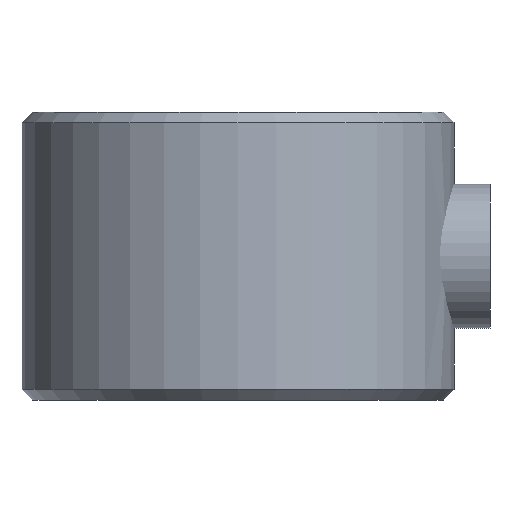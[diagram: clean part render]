
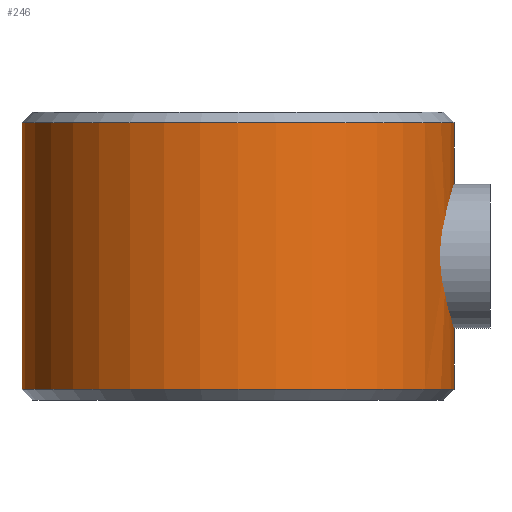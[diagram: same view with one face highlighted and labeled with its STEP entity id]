
A CAD part, front view. The second image highlights one B-rep face of the part: STEP entity #246.
In plain terms, the highlighted cylindrical face has radius 6 mm (diameter 12 mm), a partial arc.
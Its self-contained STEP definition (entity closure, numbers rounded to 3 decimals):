
#8 = CARTESIAN_POINT ( 'NONE',  ( -6., 0., 0.3 ) ) ;
#17 = CIRCLE ( 'NONE', #940, 6. ) ;
#40 = EDGE_CURVE ( 'NONE', #552, #570, #17, .T. ) ;
#48 = CARTESIAN_POINT ( 'NONE',  ( 0., 0., 0.3 ) ) ;
#52 = CARTESIAN_POINT ( 'NONE',  ( 5.907, -1.057, 2.794 ) ) ;
#58 = CARTESIAN_POINT ( 'NONE',  ( 5.921, -0.977, 5.272 ) ) ;
#61 = CARTESIAN_POINT ( 'NONE',  ( 5.986, -0.416, 5.549 ) ) ;
#63 = DIRECTION ( 'NONE',  ( 0., 0., -1. ) ) ;
#66 = CARTESIAN_POINT ( 'NONE',  ( 5.958, -0.711, 5.437 ) ) ;
#83 = CARTESIAN_POINT ( 'NONE',  ( 6., 0., 2.4 ) ) ;
#93 = CARTESIAN_POINT ( 'NONE',  ( -6., 0., 7.7 ) ) ;
#100 = B_SPLINE_CURVE_WITH_KNOTS ( 'NONE', 3,
 ( #806, #964, #736, #61, #650, #66, #728, #58, #666, #358, #295, #128, #575, #952, #371, #588, #213, #668, #220, #52, #585, #967, #291, #581, #592, #351, #887, #216 ),
 .UNSPECIFIED., .F., .F.,
 ( 4, 2, 2, 2, 2, 2, 2, 2, 2, 2, 2, 2, 2, 4 ),
 ( 0., 0., 0.001, 0.001, 0.001, 0.002, 0.003, 0.003, 0.003, 0.004, 0.004, 0.004, 0.005, 0.005 ),
 .UNSPECIFIED. ) ;
#107 = DIRECTION ( 'NONE',  ( 1., 0., 0. ) ) ;
#128 = CARTESIAN_POINT ( 'NONE',  ( 5.795, -1.557, 4.422 ) ) ;
#130 = VECTOR ( 'NONE', #391, 1000. ) ;
#138 = DIRECTION ( 'NONE',  ( 1., 0., 0. ) ) ;
#151 = EDGE_CURVE ( 'NONE', #176, #913, #100, .T. ) ;
#158 = AXIS2_PLACEMENT_3D ( 'NONE', #48, #501, #107 ) ;
#160 = CIRCLE ( 'NONE', #158, 6. ) ;
#176 = VERTEX_POINT ( 'NONE', #535 ) ;
#190 = AXIS2_PLACEMENT_3D ( 'NONE', #525, #907, #319 ) ;
#202 = CARTESIAN_POINT ( 'NONE',  ( 6., 0., 8. ) ) ;
#213 = CARTESIAN_POINT ( 'NONE',  ( 5.805, -1.518, 3.484 ) ) ;
#216 = CARTESIAN_POINT ( 'NONE',  ( 6., 0., 2.4 ) ) ;
#220 = CARTESIAN_POINT ( 'NONE',  ( 5.864, -1.279, 3.016 ) ) ;
#244 = ORIENTED_EDGE ( 'NONE', *, *, #603, .F. ) ;
#246 = ADVANCED_FACE ( 'NONE', ( #746 ), #468, .T. ) ;
#260 = DIRECTION ( 'NONE',  ( 0., 0., -1. ) ) ;
#263 = VERTEX_POINT ( 'NONE', #8 ) ;
#274 = LINE ( 'NONE', #202, #876 ) ;
#289 = CARTESIAN_POINT ( 'NONE',  ( 6., 0., 0.3 ) ) ;
#291 = CARTESIAN_POINT ( 'NONE',  ( 5.959, -0.71, 2.562 ) ) ;
#295 = CARTESIAN_POINT ( 'NONE',  ( 5.836, -1.398, 4.806 ) ) ;
#319 = DIRECTION ( 'NONE',  ( -1., 0., 0. ) ) ;
#320 = ORIENTED_EDGE ( 'NONE', *, *, #759, .F. ) ;
#324 = LINE ( 'NONE', #916, #130 ) ;
#337 = ORIENTED_EDGE ( 'NONE', *, *, #40, .T. ) ;
#351 = CARTESIAN_POINT ( 'NONE',  ( 5.997, -0.211, 2.41 ) ) ;
#358 = CARTESIAN_POINT ( 'NONE',  ( 5.864, -1.279, 4.984 ) ) ;
#363 = CARTESIAN_POINT ( 'NONE',  ( 0., 0., 7.7 ) ) ;
#371 = CARTESIAN_POINT ( 'NONE',  ( 5.786, -1.59, 3.789 ) ) ;
#391 = DIRECTION ( 'NONE',  ( 0., 0., -1. ) ) ;
#445 = DIRECTION ( 'NONE',  ( 0., 0., -1. ) ) ;
#457 = VECTOR ( 'NONE', #63, 1000. ) ;
#468 = CYLINDRICAL_SURFACE ( 'NONE', #190, 6. ) ;
#475 = CARTESIAN_POINT ( 'NONE',  ( 6., 0., 7.7 ) ) ;
#501 = DIRECTION ( 'NONE',  ( 0., 0., 1. ) ) ;
#510 = VERTEX_POINT ( 'NONE', #289 ) ;
#519 = CARTESIAN_POINT ( 'NONE',  ( 6., 0., 8. ) ) ;
#525 = CARTESIAN_POINT ( 'NONE',  ( 0., 0., 8. ) ) ;
#535 = CARTESIAN_POINT ( 'NONE',  ( 6., 0., 5.6 ) ) ;
#552 = VERTEX_POINT ( 'NONE', #475 ) ;
#570 = VERTEX_POINT ( 'NONE', #93 ) ;
#575 = CARTESIAN_POINT ( 'NONE',  ( 5.783, -1.6, 4.21 ) ) ;
#581 = CARTESIAN_POINT ( 'NONE',  ( 5.978, -0.517, 2.482 ) ) ;
#585 = CARTESIAN_POINT ( 'NONE',  ( 5.921, -0.977, 2.728 ) ) ;
#588 = CARTESIAN_POINT ( 'NONE',  ( 5.797, -1.548, 3.584 ) ) ;
#592 = CARTESIAN_POINT ( 'NONE',  ( 5.986, -0.417, 2.452 ) ) ;
#603 = EDGE_CURVE ( 'NONE', #913, #510, #274, .T. ) ;
#610 = ORIENTED_EDGE ( 'NONE', *, *, #694, .T. ) ;
#650 = CARTESIAN_POINT ( 'NONE',  ( 5.978, -0.518, 5.518 ) ) ;
#666 = CARTESIAN_POINT ( 'NONE',  ( 5.906, -1.058, 5.204 ) ) ;
#668 = CARTESIAN_POINT ( 'NONE',  ( 5.836, -1.397, 3.192 ) ) ;
#694 = EDGE_CURVE ( 'NONE', #263, #510, #160, .T. ) ;
#728 = CARTESIAN_POINT ( 'NONE',  ( 5.947, -0.803, 5.388 ) ) ;
#736 = CARTESIAN_POINT ( 'NONE',  ( 5.997, -0.211, 5.59 ) ) ;
#746 = FACE_OUTER_BOUND ( 'NONE', #800, .T. ) ;
#759 = EDGE_CURVE ( 'NONE', #552, #176, #818, .T. ) ;
#800 = EDGE_LOOP ( 'NONE', ( #320, #337, #864, #610, #244, #836 ) ) ;
#806 = CARTESIAN_POINT ( 'NONE',  ( 6., 0., 5.6 ) ) ;
#818 = LINE ( 'NONE', #519, #457 ) ;
#836 = ORIENTED_EDGE ( 'NONE', *, *, #151, .F. ) ;
#864 = ORIENTED_EDGE ( 'NONE', *, *, #963, .T. ) ;
#876 = VECTOR ( 'NONE', #260, 1000. ) ;
#887 = CARTESIAN_POINT ( 'NONE',  ( 6., -0.105, 2.4 ) ) ;
#907 = DIRECTION ( 'NONE',  ( 0., 0., -1. ) ) ;
#913 = VERTEX_POINT ( 'NONE', #83 ) ;
#916 = CARTESIAN_POINT ( 'NONE',  ( -6., 0., 8. ) ) ;
#940 = AXIS2_PLACEMENT_3D ( 'NONE', #363, #445, #138 ) ;
#952 = CARTESIAN_POINT ( 'NONE',  ( 5.783, -1.6, 3.896 ) ) ;
#963 = EDGE_CURVE ( 'NONE', #570, #263, #324, .T. ) ;
#964 = CARTESIAN_POINT ( 'NONE',  ( 6., -0.106, 5.6 ) ) ;
#967 = CARTESIAN_POINT ( 'NONE',  ( 5.947, -0.804, 2.613 ) ) ;
